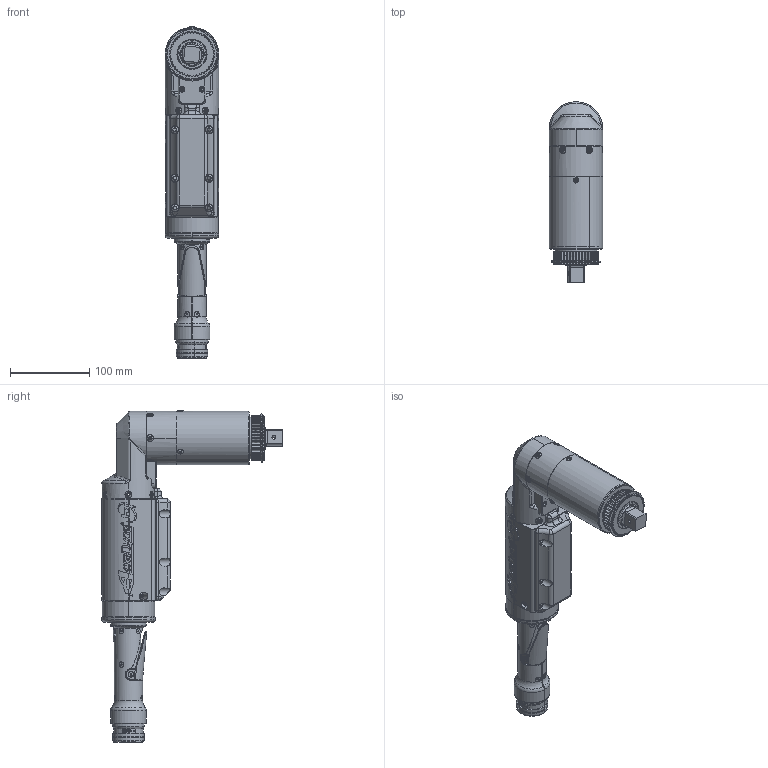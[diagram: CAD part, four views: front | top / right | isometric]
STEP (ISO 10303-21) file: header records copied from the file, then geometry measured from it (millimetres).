
FILE_DESCRIPTION (( 'STEP AP214' ), '1' );
FILE_NAME ('AEN4B66250B, AEN4B66425B, AEN4B66625B, AEN4B66925B.STEP', '2024-02-13T17:18:48', ( '' ), ( '' ), 'SwSTEP 2.0', 'SolidWorks 2023', '' );
FILE_SCHEMA (( 'AUTOMOTIVE_DESIGN' ));
Length unit declared in the file: inch
Products named in the file (1): AEN4B66250B, AEN4B66425B, AEN4B66625B, AEN4B66925B
Bounding box: 67.31 x 227.53 x 418.48 mm (x, y, z)
Surface area: 184218.2 mm2 (no closed solid volume)
Topology: 0 solids, 126 shells, 1365 faces, 5520 edges, 4082 vertices
Faces by surface type: cylinder 465, plane 346, bspline 201, cone 170, torus 165, sphere 18
Entity records: 111348 total; most frequent: CARTESIAN_POINT 70105, ORIENTED_EDGE 8286, DIRECTION 7538, EDGE_CURVE 5508, VERTEX_POINT 4082, AXIS2_PLACEMENT_3D 2847, VECTOR 1844, LINE 1844
